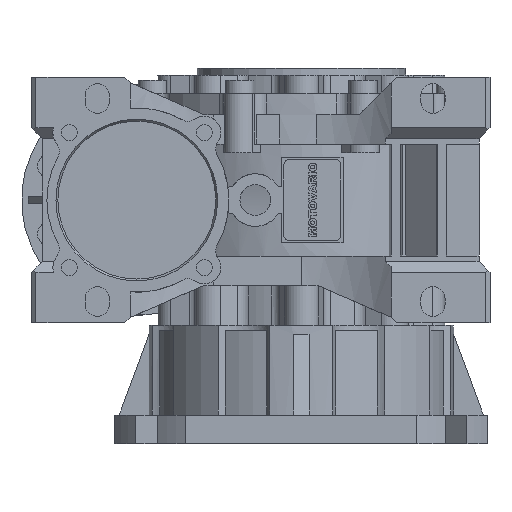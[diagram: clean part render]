
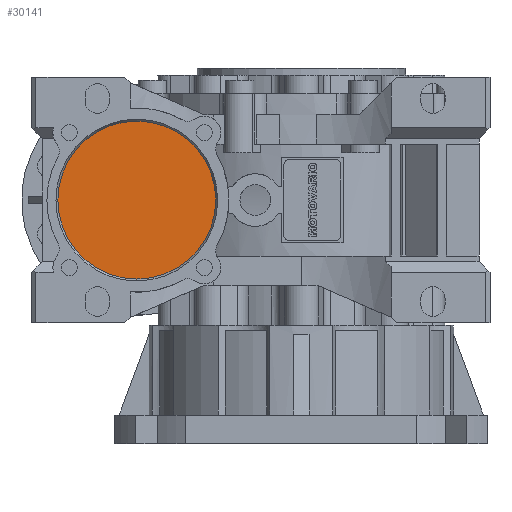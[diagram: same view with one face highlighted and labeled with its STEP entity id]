
A CAD part, left-side view. The second image highlights one B-rep face of the part: STEP entity #30141.
In plain terms, the highlighted planar face has unit normal (-1, 0, 0) as drawn and (0, 0, -1) by its records, which use the part's own axes.
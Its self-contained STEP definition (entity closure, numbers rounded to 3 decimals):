
#657=PLANE('',#32623);
#7180=CIRCLE('',#32622,36.);
#11968=ORIENTED_EDGE('',*,*,#19370,.F.);
#19370=EDGE_CURVE('',#23258,#23258,#7180,.T.);
#23258=VERTEX_POINT('',#49128);
#25487=EDGE_LOOP('',(#11968));
#27518=FACE_BOUND('',#25487,.T.);
#30141=ADVANCED_FACE('',(#27518),#657,.T.);
#32622=AXIS2_PLACEMENT_3D('',#49127,#38781,#38782);
#32623=AXIS2_PLACEMENT_3D('',#49129,#38783,#38784);
#38781=DIRECTION('',(0.,0.,1.));
#38782=DIRECTION('',(1.,0.,0.));
#38783=DIRECTION('',(0.,0.,-1.));
#38784=DIRECTION('',(-1.,0.,0.));
#49127=CARTESIAN_POINT('',(0.,75.,-87.5));
#49128=CARTESIAN_POINT('',(36.,75.,-87.5));
#49129=CARTESIAN_POINT('',(36.,75.,-87.5));
